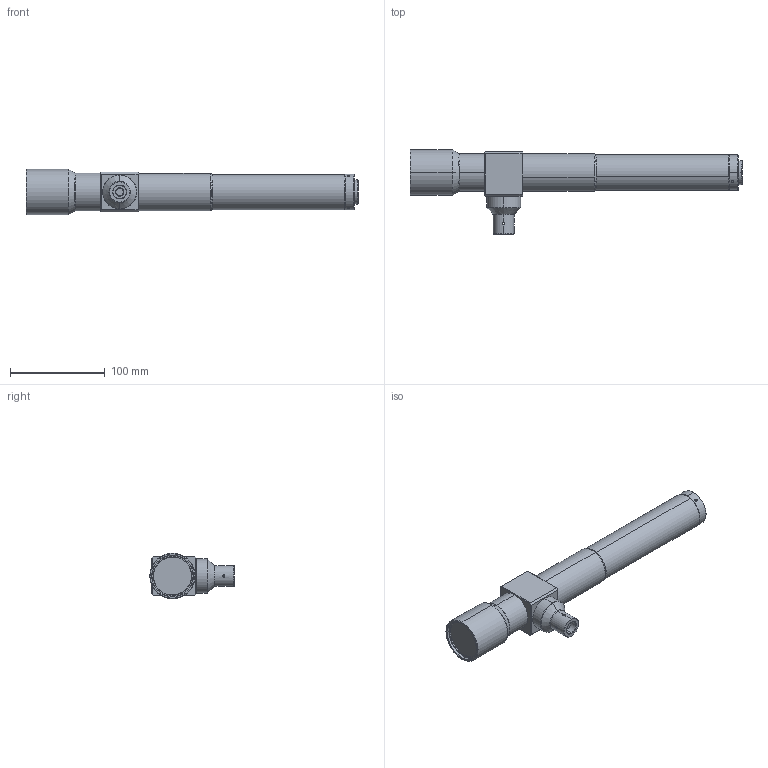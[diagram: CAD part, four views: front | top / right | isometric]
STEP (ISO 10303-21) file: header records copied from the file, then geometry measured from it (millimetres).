
FILE_DESCRIPTION (( 'STEP AP203' ), '1' );
FILE_NAME ('WWK80-178C-111V3.STEP', '2022-10-25T08:24:34', ( '' ), ( '' ), 'SwSTEP 2.0', 'SolidWorks 2017', '' );
FILE_SCHEMA (( 'CONFIG_CONTROL_DESIGN' ));
Length unit declared in the file: millimetre
Products named in the file (1): WWK80-178C-111V3
Bounding box: 351.22 x 89.2 x 48 mm (x, y, z)
Volume: 490855.3 mm3; surface area: 56437.6 mm2
Topology: 1 solids, 2 shells, 211 faces, 484 edges, 294 vertices
Faces by surface type: cylinder 84, plane 77, cone 38, torus 12
Entity records: 6527 total; most frequent: CARTESIAN_POINT 1654, DIRECTION 1038, ORIENTED_EDGE 952, EDGE_CURVE 476, AXIS2_PLACEMENT_3D 398, VERTEX_POINT 294, EDGE_LOOP 246, LINE 242
